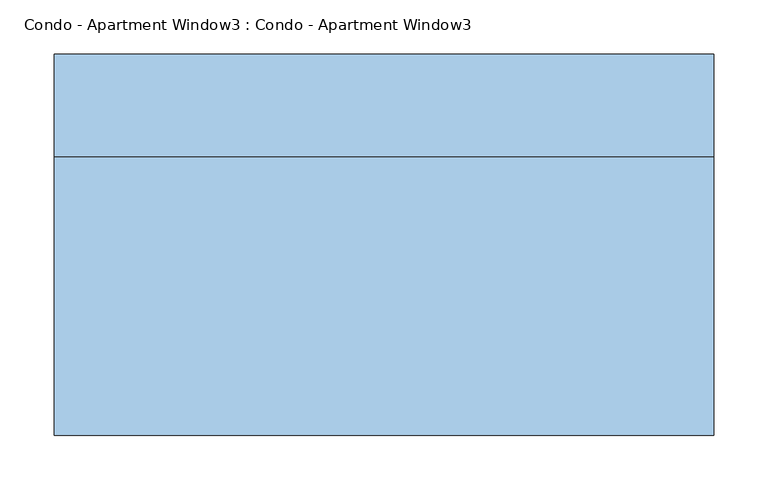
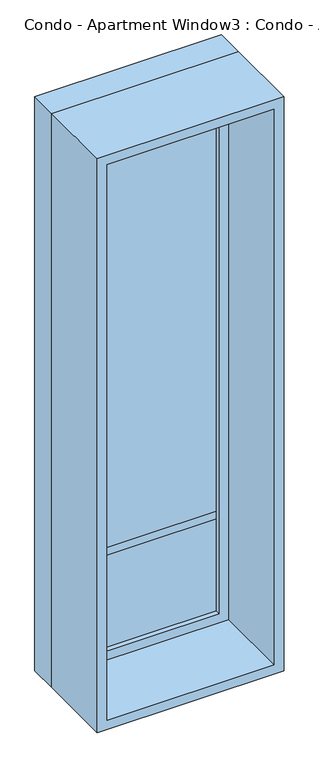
"""IFC4 building model written with IfcOpenShell, lengths in millimetres: window geometry, Condo - Apartment Window3 : Condo - Apartment Window3."""

from ifc_helpers import new_model, si_unit, frame, origin, place, context, project, spatial, polyline, outline, extrude, source, transform, mapped, element, save


def condo_apartment_window3_condo_apartment_window3_4697ba99(model_context):
    return source(origin(), model_context, "Body", "SweptSolid", [
        extrude(outline(polyline([(-279.4, 122.2375), (203.2, 122.2375), (203.2, 96.8375), (-279.4, 96.8375), (-279.4, 122.2375)])), frame((0.0, 0.0, 673.1), z_axis=(0.0, 0.0, 1.0), x_axis=(1.0, 0.0, 0.0)), (0.0, 0.0, 1.0), 25.4),
        extrude(outline(polyline([(203.2, 96.8375), (-279.4, 96.8375), (-279.4, 109.5375), (203.2, 109.5375), (203.2, 96.8375)])), frame((0.0, 0.0, 355.6), z_axis=(0.0, 0.0, 1.0), x_axis=(1.0, 0.0, 0.0)), (0.0, 0.0, 1.0), 1854.2),
        extrude(outline(polyline([(2254.25, -323.85), (311.15, -323.85), (311.15, 247.65), (2254.25, 247.65), (2254.25, -323.85)]), holes=[polyline([(2209.8, -279.4), (2209.8, 203.2), (355.6, 203.2), (355.6, -279.4), (2209.8, -279.4)])]), frame((0.0, 80.9625, 0.0), z_axis=(0.0, 1.0, 0.0), x_axis=(0.0, 0.0, 1.0)), (0.0, 0.0, 1.0), 44.45),
        extrude(outline(polyline([(2273.3, -342.9), (292.1, -342.9), (292.1, 266.7), (2273.3, 266.7), (2273.3, -342.9)]), holes=[polyline([(2241.55, -311.15), (2241.55, 234.95), (323.85, 234.95), (323.85, -311.15), (2241.55, -311.15)])]), frame((0.0, -176.2125, 0.0), z_axis=(0.0, 1.0, 0.0), x_axis=(0.0, 0.0, 1.0)), (0.0, 0.0, 1.0), 257.175),
        extrude(outline(polyline([(2273.3, 266.7), (2273.3, -342.9), (292.1, -342.9), (292.1, 266.7), (2273.3, 266.7)]), holes=[polyline([(2254.25, 247.65), (311.15, 247.65), (311.15, -323.85), (2254.25, -323.85), (2254.25, 247.65)])]), frame((0.0, 80.9625, 0.0), z_axis=(0.0, 1.0, 0.0), x_axis=(0.0, 0.0, 1.0)), (0.0, 0.0, 1.0), 95.25),
    ])


if __name__ == "__main__":
    model = new_model("IFC4")
    model_context = context("Model", 3, world=origin())
    ifc_project = project(units=[si_unit("LENGTHUNIT", "METRE", prefix="MILLI")], contexts=[model_context])
    site = spatial("IfcSite", under=ifc_project)
    building = spatial("IfcBuilding", under=site)
    placement = place(None, origin())
    condo_apartment_window3_condo_apartment_window3_shape = condo_apartment_window3_condo_apartment_window3_4697ba99(model_context)
    element("IfcWindow", 1, ObjectType="Condo - Apartment Window3 : Condo - Apartment Window3", at=placement, inside=building, context=model_context, shape_type="MappedRepresentation", body=[
        mapped(condo_apartment_window3_condo_apartment_window3_shape, transform((0.0, 0.0, 0.0), x_axis=(1.0, 0.0, 0.0), y_axis=(0.0, 1.0, 0.0), z_axis=(0.0, 0.0, 1.0))),
    ])
    save(model, "model.ifc")
